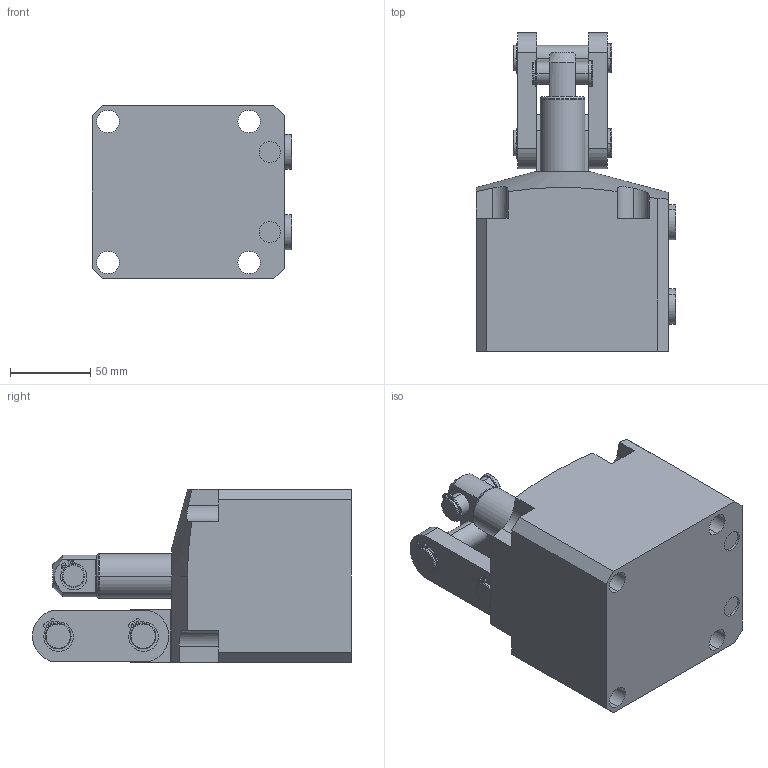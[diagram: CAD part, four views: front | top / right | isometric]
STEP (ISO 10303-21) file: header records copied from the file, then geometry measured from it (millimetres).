
FILE_DESCRIPTION(/* description */ (''),/* implementation_level */ '2;1');
FILE_NAME(/* name */ 'BPC25-R.stp',/* time_stamp */ '2025-01-05T09:51:37+08:00',/* author */ (''),/* organization */ (''),/* preprocessor_version */ 'ST-DEVELOPER v16.7',/* originating_system */ 'SIEMENS PLM Software NX 12.0',/* authorisation */ '');
FILE_SCHEMA (('AUTOMOTIVE_DESIGN { 1 0 10303 214 3 1 1 1 }'));
Length unit declared in the file: millimetre
Products named in the file (5): BPC25-R-02; BPC25-R-03; BPC25-R-04; BPC25-R-01; BPC25-R_stp
Assembly tree (5 placements, depth 2):
  BPC25-R_stp
    BPC25-R-01
    BPC25-R-04  x2
    BPC25-R-03
    BPC25-R-02
Bounding box: 124.8 x 199 x 108 mm (x, y, z)
Volume: 1411329.3 mm3; surface area: 127570 mm2
Topology: 5 solids, 5 shells, 255 faces, 617 edges, 396 vertices
Faces by surface type: cylinder 112, plane 106, torus 20, cone 17
Entity records: 7164 total; most frequent: CARTESIAN_POINT 1319, DIRECTION 1279, ORIENTED_EDGE 1142, EDGE_CURVE 571, AXIS2_PLACEMENT_3D 495, VERTEX_POINT 368, LINE 289, VECTOR 289
